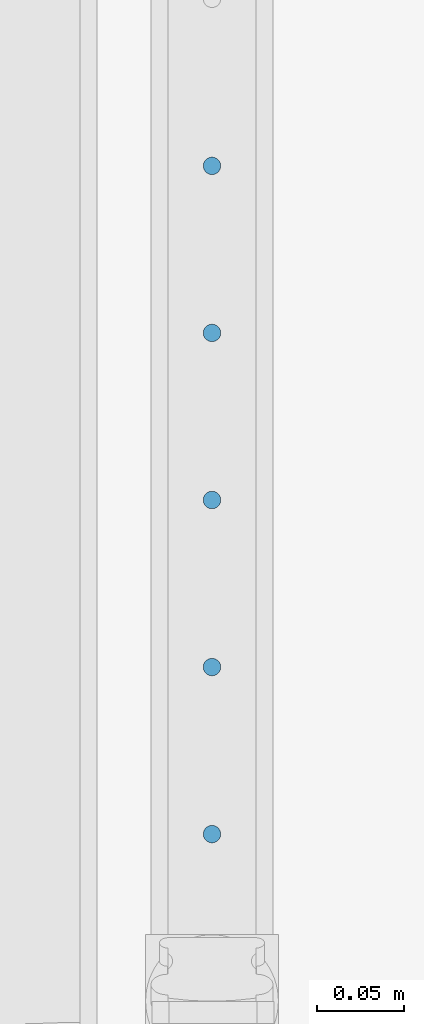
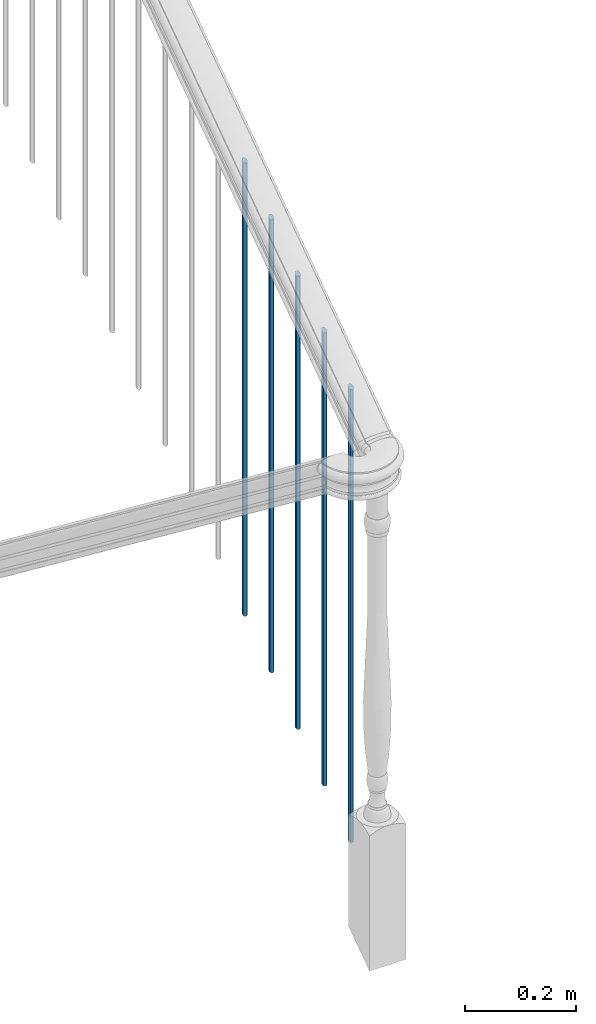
# One storey, part 11 of 77: 5 building element parts, 1 element without a shape of its own.
"""IFC2X3 building model written with IfcOpenShell, lengths in inches."""

from ifc_helpers import new_model, entity, si_unit, converted_unit, derived_unit, money_unit, direction, frame, origin_with_axes, place, context, subcontext, project, spatial, faceted_brep, material, type_object, element, aggregate, save


model = new_model("IFC2X3")

# Units and contexts
model_context = context("Model", 3, precision=0.000393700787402, world=origin_with_axes(), true_north=direction((0.0, 1.0)))
body_context = subcontext(model_context, "Body", "Model", "MODEL_VIEW")
ifc_project = project(units=[converted_unit("LENGTHUNIT", "INCH", entity("IfcPositiveLengthMeasure", 0.0254), si_unit("LENGTHUNIT", "METRE"), dimensions=[1, 0, 0, 0, 0, 0, 0]), converted_unit("AREAUNIT", "SQUARE_FOOT", entity("IfcPositiveLengthMeasure", 0.09290304), si_unit("AREAUNIT", "SQUARE_METRE"), dimensions=[2, 0, 0, 0, 0, 0, 0]), si_unit("PLANEANGLEUNIT", "RADIAN"), si_unit("SOLIDANGLEUNIT", "STERADIAN"), money_unit("USD"), converted_unit("TIMEUNIT", "Year", entity("IfcTimeMeasure", 31556926.0), si_unit("TIMEUNIT", "SECOND"), dimensions=[0, 0, 1, 0, 0, 0, 0]), si_unit("MASSUNIT", "GRAM", prefix="KILO"), si_unit("THERMODYNAMICTEMPERATUREUNIT", "DEGREE_CELSIUS"), si_unit("LUMINOUSINTENSITYUNIT", "LUMEN"), si_unit("ENERGYUNIT", "JOULE", prefix="MEGA"), derived_unit("THERMALCONDUCTANCEUNIT", [(si_unit("POWERUNIT", "WATT"), 1), (si_unit("LENGTHUNIT", "METRE"), -1), (si_unit("THERMODYNAMICTEMPERATUREUNIT", "KELVIN"), -1)]), derived_unit("SPECIFICHEATCAPACITYUNIT", [(si_unit("ENERGYUNIT", "JOULE"), 1), (si_unit("MASSUNIT", "GRAM", prefix="KILO"), -1), (si_unit("THERMODYNAMICTEMPERATUREUNIT", "KELVIN"), -1)]), derived_unit("MASSDENSITYUNIT", [(si_unit("MASSUNIT", "GRAM", prefix="KILO"), 1), (si_unit("VOLUMEUNIT", "CUBIC_METRE"), -1)])], contexts=[model_context])

# Site, building, storey
site_placement = place(None, origin_with_axes())
site = spatial("IfcSite", under=ifc_project, at=site_placement, Name="Site", CompositionType="ELEMENT")
building_placement = place(site_placement, origin_with_axes())
building = spatial("IfcBuilding", under=site, at=building_placement, Name="Building", CompositionType="ELEMENT")
storey_placement = place(building_placement, frame((0.0, 0.0, 127.952755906), z_axis=(0.0, 0.0, 1.0), x_axis=(1.0, 0.0, 0.0)))
storey = spatial("IfcBuildingStorey", under=building, at=storey_placement, Name="Second Floor", CompositionType="ELEMENT", Elevation=127.953)

# Railing, building element parts
railing_type = type_object("IfcRailingType", Name="Railing Type", PredefinedType="NOTDEFINED")
railing_placement = place(storey_placement, frame((682.459998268, 144.881628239, -56.1089279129), z_axis=(0.0, 0.0, 1.0), x_axis=(-1.0, 0.0, 0.0)))
railing = element("IfcRailing", 1, at=railing_placement, inside=storey, type_object=railing_type, Name="RAILING - 001", PredefinedType="NOTDEFINED")
ifc_material = material(Name="Steel - Structural")
building_element_part_1_placement = place(railing_placement, origin_with_axes())
building_element_part_1 = element("IfcBuildingElementPart", 2, at=building_element_part_1_placement, material=ifc_material, Name="Steel - Structural", context=body_context, shape_type="Brep", body=[
    faceted_brep([(-1.96850393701, 52.9711919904, 13.2333852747), (-1.93432122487, 52.9741825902, 13.2313026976), (-1.93432122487, 52.9741825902, 52.443901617), (-1.96850393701, 52.9711919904, 52.445984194), (-2.00268664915, 52.9741825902, 13.2313026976), (-2.03583073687, 52.9830635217, 13.2251182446), (-2.06692913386, 52.9975649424, 13.2150198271), (-2.09503693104, 53.0172462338, 13.2013142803), (-2.11930008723, 53.04150939, 13.1844180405), (-2.1389813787, 53.0696171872, 13.1648444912), (-2.15348279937, 53.1007155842, 13.1431883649), (-2.16236373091, 53.1338596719, 13.120107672), (-2.16535433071, 53.1680423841, 13.0963037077), (-2.16236373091, 53.2022250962, 13.0724997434), (-2.15348279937, 53.2353691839, 13.0494190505), (-2.1389813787, 53.2664675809, 13.0277629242), (-2.11930008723, 53.2945753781, 13.0081893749), (-2.09503693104, 53.3188385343, 12.991293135), (-2.06692913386, 53.3385198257, 12.9775875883), (-2.03583073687, 53.3530212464, 12.9674891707), (-2.00268664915, 53.361902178, 12.9613047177), (-1.96850393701, 53.3648927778, 12.9592221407), (-1.93432122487, 53.361902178, 12.9613047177), (-1.90117713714, 53.3530212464, 12.9674891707), (-1.87007874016, 53.3385198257, 12.9775875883), (-1.84197094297, 53.3188385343, 12.991293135), (-1.81770778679, 53.2945753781, 13.0081893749), (-1.79802649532, 53.2664675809, 13.0277629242), (-1.78352507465, 53.2353691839, 13.0494190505), (-1.77464414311, 53.2022250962, 13.0724997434), (-1.77165354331, 53.1680423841, 13.0963037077), (-1.77464414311, 53.1338596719, 13.120107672), (-1.78352507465, 53.1007155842, 13.1431883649), (-1.79802649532, 53.0696171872, 13.1648444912), (-1.81770778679, 53.04150939, 13.1844180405), (-1.84197094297, 53.0172462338, 13.2013142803), (-1.87007874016, 52.9975649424, 13.2150198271), (-1.90117713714, 52.9830635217, 13.2251182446), (-1.90117713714, 52.9830635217, 52.437717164), (-1.87007874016, 52.9975649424, 52.4276187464), (-1.84197094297, 53.0172462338, 52.4139131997), (-1.81770778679, 53.04150939, 52.3970169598), (-1.79802649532, 53.0696171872, 52.3774434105), (-1.78352507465, 53.1007155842, 52.3557872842), (-1.77464414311, 53.1338596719, 52.3327065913), (-1.77165354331, 53.1680423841, 52.308902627), (-1.77464414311, 53.2022250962, 52.2850986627), (-1.78352507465, 53.2353691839, 52.2620179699), (-1.79802649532, 53.2664675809, 52.2403618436), (-1.81770778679, 53.2945753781, 52.2207882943), (-1.84197094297, 53.3188385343, 52.2038920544), (-1.87007874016, 53.3385198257, 52.1901865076), (-1.90117713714, 53.3530212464, 52.1800880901), (-1.93432122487, 53.361902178, 52.1739036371), (-1.96850393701, 53.3648927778, 52.1718210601), (-2.00268664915, 53.361902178, 52.1739036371), (-2.03583073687, 53.3530212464, 52.1800880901), (-2.06692913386, 53.3385198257, 52.1901865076), (-2.09503693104, 53.3188385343, 52.2038920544), (-2.11930008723, 53.2945753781, 52.2207882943), (-2.1389813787, 53.2664675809, 52.2403618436), (-2.15348279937, 53.2353691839, 52.2620179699), (-2.16236373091, 53.2022250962, 52.2850986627), (-2.16535433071, 53.1680423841, 52.308902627), (-2.16236373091, 53.1338596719, 52.3327065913), (-2.15348279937, 53.1007155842, 52.3557872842), (-2.1389813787, 53.0696171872, 52.3774434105), (-2.11930008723, 53.04150939, 52.3970169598), (-2.09503693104, 53.0172462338, 52.4139131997), (-2.06692913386, 52.9975649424, 52.4276187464), (-2.03583073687, 52.9830635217, 52.437717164), (-2.00268664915, 52.9741825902, 52.443901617)], [[[0, 1, 2, 3]], [[0, 4, 5, 6, 7, 8, 9, 10, 11, 12, 13, 14, 15, 16, 17, 18, 19, 20, 21, 22, 23, 24, 25, 26, 27, 28, 29, 30, 31, 32, 33, 34, 35, 36, 37, 1]], [[1, 37, 38, 2]], [[3, 2, 38, 39, 40, 41, 42, 43, 44, 45, 46, 47, 48, 49, 50, 51, 52, 53, 54, 55, 56, 57, 58, 59, 60, 61, 62, 63, 64, 65, 66, 67, 68, 69, 70, 71]], [[4, 0, 3, 71]], [[5, 4, 71, 70]], [[6, 5, 70, 69]], [[7, 6, 69, 68]], [[8, 7, 68, 67]], [[9, 8, 67, 66]], [[10, 9, 66, 65]], [[11, 10, 65, 64]], [[12, 11, 64, 63]], [[13, 12, 63, 62]], [[14, 13, 62, 61]], [[15, 14, 61, 60]], [[16, 15, 60, 59]], [[17, 16, 59, 58]], [[18, 17, 58, 57]], [[19, 18, 57, 56]], [[20, 19, 56, 55]], [[21, 20, 55, 54]], [[22, 21, 54, 53]], [[23, 22, 53, 52]], [[24, 23, 52, 51]], [[25, 24, 51, 50]], [[26, 25, 50, 49]], [[27, 26, 49, 48]], [[28, 27, 48, 47]], [[29, 28, 47, 46]], [[30, 29, 46, 45]], [[31, 30, 45, 44]], [[32, 31, 44, 43]], [[33, 32, 43, 42]], [[34, 33, 42, 41]], [[35, 34, 41, 40]], [[36, 35, 40, 39]], [[37, 36, 39, 38]]]),
])
building_element_part_2_placement = place(railing_placement, origin_with_axes())
building_element_part_2 = element("IfcBuildingElementPart", 3, at=building_element_part_2_placement, material=ifc_material, Name="Steel - Structural", context=body_context, shape_type="Brep", body=[
    faceted_brep([(-1.96850393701, 56.7324746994, 10.6141244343), (-1.93432122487, 56.7354652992, 10.6120418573), (-1.93432122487, 56.7354652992, 49.8246407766), (-1.96850393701, 56.7324746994, 49.8267233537), (-2.00268664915, 56.7354652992, 10.6120418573), (-2.03583073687, 56.7443462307, 10.6058574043), (-2.06692913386, 56.7588476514, 10.5957589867), (-2.09503693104, 56.7785289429, 10.58205344), (-2.11930008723, 56.802792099, 10.5651572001), (-2.1389813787, 56.8308998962, 10.5455836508), (-2.15348279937, 56.8619982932, 10.5239275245), (-2.16236373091, 56.8951423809, 10.5008468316), (-2.16535433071, 56.9293250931, 10.4770428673), (-2.16236373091, 56.9635078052, 10.453238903), (-2.15348279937, 56.9966518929, 10.4301582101), (-2.1389813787, 57.0277502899, 10.4085020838), (-2.11930008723, 57.0558580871, 10.3889285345), (-2.09503693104, 57.0801212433, 10.3720322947), (-2.06692913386, 57.0998025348, 10.3583267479), (-2.03583073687, 57.1143039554, 10.3482283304), (-2.00268664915, 57.123184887, 10.3420438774), (-1.96850393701, 57.1261754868, 10.3399613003), (-1.93432122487, 57.123184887, 10.3420438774), (-1.90117713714, 57.1143039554, 10.3482283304), (-1.87007874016, 57.0998025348, 10.3583267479), (-1.84197094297, 57.0801212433, 10.3720322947), (-1.81770778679, 57.0558580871, 10.3889285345), (-1.79802649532, 57.0277502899, 10.4085020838), (-1.78352507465, 56.9966518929, 10.4301582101), (-1.77464414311, 56.9635078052, 10.453238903), (-1.77165354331, 56.9293250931, 10.4770428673), (-1.77464414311, 56.8951423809, 10.5008468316), (-1.78352507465, 56.8619982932, 10.5239275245), (-1.79802649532, 56.8308998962, 10.5455836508), (-1.81770778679, 56.802792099, 10.5651572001), (-1.84197094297, 56.7785289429, 10.58205344), (-1.87007874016, 56.7588476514, 10.5957589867), (-1.90117713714, 56.7443462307, 10.6058574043), (-1.90117713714, 56.7443462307, 49.8184563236), (-1.87007874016, 56.7588476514, 49.8083579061), (-1.84197094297, 56.7785289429, 49.7946523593), (-1.81770778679, 56.802792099, 49.7777561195), (-1.79802649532, 56.8308998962, 49.7581825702), (-1.78352507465, 56.8619982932, 49.7365264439), (-1.77464414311, 56.8951423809, 49.713445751), (-1.77165354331, 56.9293250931, 49.6896417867), (-1.77464414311, 56.9635078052, 49.6658378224), (-1.78352507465, 56.9966518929, 49.6427571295), (-1.79802649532, 57.0277502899, 49.6211010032), (-1.81770778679, 57.0558580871, 49.6015274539), (-1.84197094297, 57.0801212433, 49.584631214), (-1.87007874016, 57.0998025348, 49.5709256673), (-1.90117713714, 57.1143039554, 49.5608272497), (-1.93432122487, 57.123184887, 49.5546427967), (-1.96850393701, 57.1261754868, 49.5525602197), (-2.00268664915, 57.123184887, 49.5546427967), (-2.03583073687, 57.1143039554, 49.5608272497), (-2.06692913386, 57.0998025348, 49.5709256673), (-2.09503693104, 57.0801212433, 49.584631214), (-2.11930008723, 57.0558580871, 49.6015274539), (-2.1389813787, 57.0277502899, 49.6211010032), (-2.15348279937, 56.9966518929, 49.6427571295), (-2.16236373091, 56.9635078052, 49.6658378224), (-2.16535433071, 56.9293250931, 49.6896417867), (-2.16236373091, 56.8951423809, 49.713445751), (-2.15348279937, 56.8619982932, 49.7365264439), (-2.1389813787, 56.8308998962, 49.7581825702), (-2.11930008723, 56.802792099, 49.7777561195), (-2.09503693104, 56.7785289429, 49.7946523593), (-2.06692913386, 56.7588476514, 49.8083579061), (-2.03583073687, 56.7443462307, 49.8184563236), (-2.00268664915, 56.7354652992, 49.8246407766)], [[[0, 1, 2, 3]], [[0, 4, 5, 6, 7, 8, 9, 10, 11, 12, 13, 14, 15, 16, 17, 18, 19, 20, 21, 22, 23, 24, 25, 26, 27, 28, 29, 30, 31, 32, 33, 34, 35, 36, 37, 1]], [[1, 37, 38, 2]], [[3, 2, 38, 39, 40, 41, 42, 43, 44, 45, 46, 47, 48, 49, 50, 51, 52, 53, 54, 55, 56, 57, 58, 59, 60, 61, 62, 63, 64, 65, 66, 67, 68, 69, 70, 71]], [[4, 0, 3, 71]], [[5, 4, 71, 70]], [[6, 5, 70, 69]], [[7, 6, 69, 68]], [[8, 7, 68, 67]], [[9, 8, 67, 66]], [[10, 9, 66, 65]], [[11, 10, 65, 64]], [[12, 11, 64, 63]], [[13, 12, 63, 62]], [[14, 13, 62, 61]], [[15, 14, 61, 60]], [[16, 15, 60, 59]], [[17, 16, 59, 58]], [[18, 17, 58, 57]], [[19, 18, 57, 56]], [[20, 19, 56, 55]], [[21, 20, 55, 54]], [[22, 21, 54, 53]], [[23, 22, 53, 52]], [[24, 23, 52, 51]], [[25, 24, 51, 50]], [[26, 25, 50, 49]], [[27, 26, 49, 48]], [[28, 27, 48, 47]], [[29, 28, 47, 46]], [[30, 29, 46, 45]], [[31, 30, 45, 44]], [[32, 31, 44, 43]], [[33, 32, 43, 42]], [[34, 33, 42, 41]], [[35, 34, 41, 40]], [[36, 35, 40, 39]], [[37, 36, 39, 38]]]),
])
building_element_part_3_placement = place(railing_placement, origin_with_axes())
building_element_part_3 = element("IfcBuildingElementPart", 4, at=building_element_part_3_placement, material=ifc_material, Name="Steel - Structural", context=body_context, shape_type="Brep", body=[
    faceted_brep([(-1.96850393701, 60.4937574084, 7.99486359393), (-1.93432122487, 60.4967480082, 7.99278101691), (-1.93432122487, 60.4967480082, 47.2053799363), (-1.96850393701, 60.4937574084, 47.2074625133), (-2.00268664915, 60.4967480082, 7.99278101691), (-2.03583073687, 60.5056289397, 7.98659656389), (-2.06692913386, 60.5201303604, 7.97649814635), (-2.09503693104, 60.5398116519, 7.96279259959), (-2.11930008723, 60.5640748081, 7.94589635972), (-2.1389813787, 60.5921826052, 7.92632281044), (-2.15348279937, 60.6232810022, 7.90466668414), (-2.16236373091, 60.65642509, 7.88158599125), (-2.16535433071, 60.6906078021, 7.85778202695), (-2.16236373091, 60.7247905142, 7.83397806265), (-2.15348279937, 60.757934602, 7.81089736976), (-2.1389813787, 60.7890329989, 7.78924124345), (-2.11930008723, 60.8171407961, 7.76966769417), (-2.09503693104, 60.8414039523, 7.7527714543), (-2.06692913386, 60.8610852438, 7.73906590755), (-2.03583073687, 60.8755866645, 7.72896749), (-2.00268664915, 60.884467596, 7.72278303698), (-1.96850393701, 60.8874581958, 7.72070045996), (-1.93432122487, 60.884467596, 7.72278303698), (-1.90117713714, 60.8755866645, 7.72896749), (-1.87007874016, 60.8610852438, 7.73906590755), (-1.84197094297, 60.8414039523, 7.7527714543), (-1.81770778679, 60.8171407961, 7.76966769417), (-1.79802649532, 60.7890329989, 7.78924124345), (-1.78352507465, 60.757934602, 7.81089736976), (-1.77464414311, 60.7247905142, 7.83397806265), (-1.77165354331, 60.6906078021, 7.85778202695), (-1.77464414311, 60.65642509, 7.88158599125), (-1.78352507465, 60.6232810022, 7.90466668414), (-1.79802649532, 60.5921826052, 7.92632281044), (-1.81770778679, 60.5640748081, 7.94589635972), (-1.84197094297, 60.5398116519, 7.96279259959), (-1.87007874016, 60.5201303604, 7.97649814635), (-1.90117713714, 60.5056289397, 7.98659656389), (-1.90117713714, 60.5056289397, 47.1991954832), (-1.87007874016, 60.5201303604, 47.1890970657), (-1.84197094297, 60.5398116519, 47.1753915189), (-1.81770778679, 60.5640748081, 47.1584952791), (-1.79802649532, 60.5921826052, 47.1389217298), (-1.78352507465, 60.6232810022, 47.1172656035), (-1.77464414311, 60.65642509, 47.0941849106), (-1.77165354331, 60.6906078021, 47.0703809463), (-1.77464414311, 60.7247905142, 47.046576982), (-1.78352507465, 60.757934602, 47.0234962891), (-1.79802649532, 60.7890329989, 47.0018401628), (-1.81770778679, 60.8171407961, 46.9822666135), (-1.84197094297, 60.8414039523, 46.9653703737), (-1.87007874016, 60.8610852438, 46.9516648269), (-1.90117713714, 60.8755866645, 46.9415664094), (-1.93432122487, 60.884467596, 46.9353819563), (-1.96850393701, 60.8874581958, 46.9332993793), (-2.00268664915, 60.884467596, 46.9353819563), (-2.03583073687, 60.8755866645, 46.9415664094), (-2.06692913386, 60.8610852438, 46.9516648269), (-2.09503693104, 60.8414039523, 46.9653703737), (-2.11930008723, 60.8171407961, 46.9822666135), (-2.1389813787, 60.7890329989, 47.0018401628), (-2.15348279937, 60.757934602, 47.0234962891), (-2.16236373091, 60.7247905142, 47.046576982), (-2.16535433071, 60.6906078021, 47.0703809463), (-2.16236373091, 60.65642509, 47.0941849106), (-2.15348279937, 60.6232810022, 47.1172656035), (-2.1389813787, 60.5921826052, 47.1389217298), (-2.11930008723, 60.5640748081, 47.1584952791), (-2.09503693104, 60.5398116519, 47.1753915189), (-2.06692913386, 60.5201303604, 47.1890970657), (-2.03583073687, 60.5056289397, 47.1991954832), (-2.00268664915, 60.4967480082, 47.2053799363)], [[[0, 1, 2, 3]], [[0, 4, 5, 6, 7, 8, 9, 10, 11, 12, 13, 14, 15, 16, 17, 18, 19, 20, 21, 22, 23, 24, 25, 26, 27, 28, 29, 30, 31, 32, 33, 34, 35, 36, 37, 1]], [[1, 37, 38, 2]], [[3, 2, 38, 39, 40, 41, 42, 43, 44, 45, 46, 47, 48, 49, 50, 51, 52, 53, 54, 55, 56, 57, 58, 59, 60, 61, 62, 63, 64, 65, 66, 67, 68, 69, 70, 71]], [[4, 0, 3, 71]], [[5, 4, 71, 70]], [[6, 5, 70, 69]], [[7, 6, 69, 68]], [[8, 7, 68, 67]], [[9, 8, 67, 66]], [[10, 9, 66, 65]], [[11, 10, 65, 64]], [[12, 11, 64, 63]], [[13, 12, 63, 62]], [[14, 13, 62, 61]], [[15, 14, 61, 60]], [[16, 15, 60, 59]], [[17, 16, 59, 58]], [[18, 17, 58, 57]], [[19, 18, 57, 56]], [[20, 19, 56, 55]], [[21, 20, 55, 54]], [[22, 21, 54, 53]], [[23, 22, 53, 52]], [[24, 23, 52, 51]], [[25, 24, 51, 50]], [[26, 25, 50, 49]], [[27, 26, 49, 48]], [[28, 27, 48, 47]], [[29, 28, 47, 46]], [[30, 29, 46, 45]], [[31, 30, 45, 44]], [[32, 31, 44, 43]], [[33, 32, 43, 42]], [[34, 33, 42, 41]], [[35, 34, 41, 40]], [[36, 35, 40, 39]], [[37, 36, 39, 38]]]),
])
building_element_part_4_placement = place(railing_placement, origin_with_axes())
building_element_part_4 = element("IfcBuildingElementPart", 5, at=building_element_part_4_placement, material=ifc_material, Name="Steel - Structural", context=body_context, shape_type="Brep", body=[
    faceted_brep([(-1.96850393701, 64.2550401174, 5.37560275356), (-1.93432122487, 64.2580307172, 5.37352017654), (-1.93432122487, 64.2580307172, 44.5861190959), (-1.96850393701, 64.2550401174, 44.5882016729), (-2.00268664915, 64.2580307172, 5.37352017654), (-2.03583073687, 64.2669116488, 5.36733572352), (-2.06692913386, 64.2814130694, 5.35723730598), (-2.09503693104, 64.3010943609, 5.34353175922), (-2.11930008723, 64.3253575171, 5.32663551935), (-2.1389813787, 64.3534653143, 5.30706197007), (-2.15348279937, 64.3845637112, 5.28540584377), (-2.16236373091, 64.417707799, 5.26232515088), (-2.16535433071, 64.4518905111, 5.23852118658), (-2.16236373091, 64.4860732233, 5.21471722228), (-2.15348279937, 64.519217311, 5.19163652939), (-2.1389813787, 64.550315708, 5.16998040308), (-2.11930008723, 64.5784235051, 5.1504068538), (-2.09503693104, 64.6026866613, 5.13351061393), (-2.06692913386, 64.6223679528, 5.11980506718), (-2.03583073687, 64.6368693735, 5.10970664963), (-2.00268664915, 64.645750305, 5.10352219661), (-1.96850393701, 64.6487409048, 5.10143961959), (-1.93432122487, 64.645750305, 5.10352219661), (-1.90117713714, 64.6368693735, 5.10970664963), (-1.87007874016, 64.6223679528, 5.11980506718), (-1.84197094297, 64.6026866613, 5.13351061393), (-1.81770778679, 64.5784235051, 5.1504068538), (-1.79802649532, 64.550315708, 5.16998040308), (-1.78352507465, 64.519217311, 5.19163652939), (-1.77464414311, 64.4860732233, 5.21471722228), (-1.77165354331, 64.4518905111, 5.23852118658), (-1.77464414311, 64.417707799, 5.26232515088), (-1.78352507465, 64.3845637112, 5.28540584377), (-1.79802649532, 64.3534653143, 5.30706197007), (-1.81770778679, 64.3253575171, 5.32663551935), (-1.84197094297, 64.3010943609, 5.34353175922), (-1.87007874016, 64.2814130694, 5.35723730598), (-1.90117713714, 64.2669116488, 5.36733572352), (-1.90117713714, 64.2669116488, 44.5799346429), (-1.87007874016, 64.2814130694, 44.5698362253), (-1.84197094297, 64.3010943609, 44.5561306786), (-1.81770778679, 64.3253575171, 44.5392344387), (-1.79802649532, 64.3534653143, 44.5196608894), (-1.78352507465, 64.3845637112, 44.4980047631), (-1.77464414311, 64.417707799, 44.4749240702), (-1.77165354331, 64.4518905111, 44.4511201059), (-1.77464414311, 64.4860732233, 44.4273161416), (-1.78352507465, 64.519217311, 44.4042354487), (-1.79802649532, 64.550315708, 44.3825793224), (-1.81770778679, 64.5784235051, 44.3630057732), (-1.84197094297, 64.6026866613, 44.3461095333), (-1.87007874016, 64.6223679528, 44.3324039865), (-1.90117713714, 64.6368693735, 44.322305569), (-1.93432122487, 64.645750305, 44.316121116), (-1.96850393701, 64.6487409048, 44.3140385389), (-2.00268664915, 64.645750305, 44.316121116), (-2.03583073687, 64.6368693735, 44.322305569), (-2.06692913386, 64.6223679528, 44.3324039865), (-2.09503693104, 64.6026866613, 44.3461095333), (-2.11930008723, 64.5784235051, 44.3630057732), (-2.1389813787, 64.550315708, 44.3825793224), (-2.15348279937, 64.519217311, 44.4042354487), (-2.16236373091, 64.4860732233, 44.4273161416), (-2.16535433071, 64.4518905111, 44.4511201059), (-2.16236373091, 64.417707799, 44.4749240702), (-2.15348279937, 64.3845637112, 44.4980047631), (-2.1389813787, 64.3534653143, 44.5196608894), (-2.11930008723, 64.3253575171, 44.5392344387), (-2.09503693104, 64.3010943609, 44.5561306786), (-2.06692913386, 64.2814130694, 44.5698362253), (-2.03583073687, 64.2669116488, 44.5799346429), (-2.00268664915, 64.2580307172, 44.5861190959)], [[[0, 1, 2, 3]], [[0, 4, 5, 6, 7, 8, 9, 10, 11, 12, 13, 14, 15, 16, 17, 18, 19, 20, 21, 22, 23, 24, 25, 26, 27, 28, 29, 30, 31, 32, 33, 34, 35, 36, 37, 1]], [[1, 37, 38, 2]], [[3, 2, 38, 39, 40, 41, 42, 43, 44, 45, 46, 47, 48, 49, 50, 51, 52, 53, 54, 55, 56, 57, 58, 59, 60, 61, 62, 63, 64, 65, 66, 67, 68, 69, 70, 71]], [[4, 0, 3, 71]], [[5, 4, 71, 70]], [[6, 5, 70, 69]], [[7, 6, 69, 68]], [[8, 7, 68, 67]], [[9, 8, 67, 66]], [[10, 9, 66, 65]], [[11, 10, 65, 64]], [[12, 11, 64, 63]], [[13, 12, 63, 62]], [[14, 13, 62, 61]], [[15, 14, 61, 60]], [[16, 15, 60, 59]], [[17, 16, 59, 58]], [[18, 17, 58, 57]], [[19, 18, 57, 56]], [[20, 19, 56, 55]], [[21, 20, 55, 54]], [[22, 21, 54, 53]], [[23, 22, 53, 52]], [[24, 23, 52, 51]], [[25, 24, 51, 50]], [[26, 25, 50, 49]], [[27, 26, 49, 48]], [[28, 27, 48, 47]], [[29, 28, 47, 46]], [[30, 29, 46, 45]], [[31, 30, 45, 44]], [[32, 31, 44, 43]], [[33, 32, 43, 42]], [[34, 33, 42, 41]], [[35, 34, 41, 40]], [[36, 35, 40, 39]], [[37, 36, 39, 38]]]),
])
building_element_part_5_placement = place(railing_placement, origin_with_axes())
building_element_part_5 = element("IfcBuildingElementPart", 6, at=building_element_part_5_placement, material=ifc_material, Name="Steel - Structural", context=body_context, shape_type="Brep", body=[
    faceted_brep([(-1.96850393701, 68.0163228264, 2.75634191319), (-1.93432122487, 68.0193134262, 2.75425933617), (-1.93432122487, 68.0193134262, 41.9668582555), (-1.96850393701, 68.0163228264, 41.9689408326), (-2.00268664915, 68.0193134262, 2.75425933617), (-2.03583073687, 68.0281943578, 2.74807488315), (-2.06692913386, 68.0426957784, 2.73797646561), (-2.09503693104, 68.0623770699, 2.72427091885), (-2.11930008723, 68.0866402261, 2.70737467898), (-2.1389813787, 68.1147480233, 2.6878011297), (-2.15348279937, 68.1458464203, 2.6661450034), (-2.16236373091, 68.178990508, 2.64306431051), (-2.16535433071, 68.2131732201, 2.61926034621), (-2.16236373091, 68.2473559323, 2.59545638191), (-2.15348279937, 68.28050002, 2.57237568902), (-2.1389813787, 68.311598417, 2.55071956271), (-2.11930008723, 68.3397062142, 2.53114601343), (-2.09503693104, 68.3639693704, 2.51424977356), (-2.06692913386, 68.3836506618, 2.50054422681), (-2.03583073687, 68.3981520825, 2.49044580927), (-2.00268664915, 68.407033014, 2.48426135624), (-1.96850393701, 68.4100236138, 2.48217877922), (-1.93432122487, 68.407033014, 2.48426135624), (-1.90117713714, 68.3981520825, 2.49044580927), (-1.87007874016, 68.3836506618, 2.50054422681), (-1.84197094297, 68.3639693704, 2.51424977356), (-1.81770778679, 68.3397062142, 2.53114601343), (-1.79802649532, 68.311598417, 2.55071956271), (-1.78352507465, 68.28050002, 2.57237568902), (-1.77464414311, 68.2473559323, 2.59545638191), (-1.77165354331, 68.2131732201, 2.61926034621), (-1.77464414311, 68.178990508, 2.64306431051), (-1.78352507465, 68.1458464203, 2.6661450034), (-1.79802649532, 68.1147480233, 2.6878011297), (-1.81770778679, 68.0866402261, 2.70737467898), (-1.84197094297, 68.0623770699, 2.72427091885), (-1.87007874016, 68.0426957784, 2.73797646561), (-1.90117713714, 68.0281943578, 2.74807488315), (-1.90117713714, 68.0281943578, 41.9606738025), (-1.87007874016, 68.0426957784, 41.950575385), (-1.84197094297, 68.0623770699, 41.9368698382), (-1.81770778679, 68.0866402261, 41.9199735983), (-1.79802649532, 68.1147480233, 41.9004000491), (-1.78352507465, 68.1458464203, 41.8787439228), (-1.77464414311, 68.178990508, 41.8556632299), (-1.77165354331, 68.2131732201, 41.8318592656), (-1.77464414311, 68.2473559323, 41.8080553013), (-1.78352507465, 68.28050002, 41.7849746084), (-1.79802649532, 68.311598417, 41.7633184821), (-1.81770778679, 68.3397062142, 41.7437449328), (-1.84197094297, 68.3639693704, 41.7268486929), (-1.87007874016, 68.3836506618, 41.7131431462), (-1.90117713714, 68.3981520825, 41.7030447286), (-1.93432122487, 68.407033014, 41.6968602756), (-1.96850393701, 68.4100236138, 41.6947776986), (-2.00268664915, 68.407033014, 41.6968602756), (-2.03583073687, 68.3981520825, 41.7030447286), (-2.06692913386, 68.3836506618, 41.7131431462), (-2.09503693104, 68.3639693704, 41.7268486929), (-2.11930008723, 68.3397062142, 41.7437449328), (-2.1389813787, 68.311598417, 41.7633184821), (-2.15348279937, 68.28050002, 41.7849746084), (-2.16236373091, 68.2473559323, 41.8080553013), (-2.16535433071, 68.2131732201, 41.8318592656), (-2.16236373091, 68.178990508, 41.8556632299), (-2.15348279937, 68.1458464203, 41.8787439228), (-2.1389813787, 68.1147480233, 41.9004000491), (-2.11930008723, 68.0866402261, 41.9199735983), (-2.09503693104, 68.0623770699, 41.9368698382), (-2.06692913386, 68.0426957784, 41.950575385), (-2.03583073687, 68.0281943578, 41.9606738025), (-2.00268664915, 68.0193134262, 41.9668582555)], [[[0, 1, 2, 3]], [[0, 4, 5, 6, 7, 8, 9, 10, 11, 12, 13, 14, 15, 16, 17, 18, 19, 20, 21, 22, 23, 24, 25, 26, 27, 28, 29, 30, 31, 32, 33, 34, 35, 36, 37, 1]], [[1, 37, 38, 2]], [[3, 2, 38, 39, 40, 41, 42, 43, 44, 45, 46, 47, 48, 49, 50, 51, 52, 53, 54, 55, 56, 57, 58, 59, 60, 61, 62, 63, 64, 65, 66, 67, 68, 69, 70, 71]], [[4, 0, 3, 71]], [[5, 4, 71, 70]], [[6, 5, 70, 69]], [[7, 6, 69, 68]], [[8, 7, 68, 67]], [[9, 8, 67, 66]], [[10, 9, 66, 65]], [[11, 10, 65, 64]], [[12, 11, 64, 63]], [[13, 12, 63, 62]], [[14, 13, 62, 61]], [[15, 14, 61, 60]], [[16, 15, 60, 59]], [[17, 16, 59, 58]], [[18, 17, 58, 57]], [[19, 18, 57, 56]], [[20, 19, 56, 55]], [[21, 20, 55, 54]], [[22, 21, 54, 53]], [[23, 22, 53, 52]], [[24, 23, 52, 51]], [[25, 24, 51, 50]], [[26, 25, 50, 49]], [[27, 26, 49, 48]], [[28, 27, 48, 47]], [[29, 28, 47, 46]], [[30, 29, 46, 45]], [[31, 30, 45, 44]], [[32, 31, 44, 43]], [[33, 32, 43, 42]], [[34, 33, 42, 41]], [[35, 34, 41, 40]], [[36, 35, 40, 39]], [[37, 36, 39, 38]]]),
])
aggregate(railing, [building_element_part_1, building_element_part_2, building_element_part_3, building_element_part_4, building_element_part_5])

save(model, "model.ifc")
